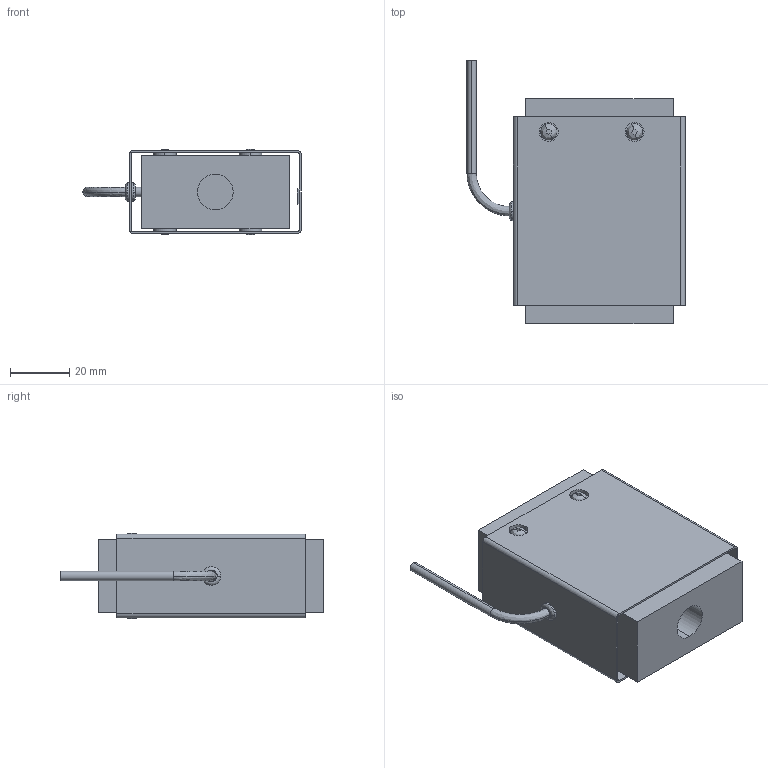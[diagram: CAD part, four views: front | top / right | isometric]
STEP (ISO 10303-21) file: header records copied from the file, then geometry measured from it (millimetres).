
FILE_DESCRIPTION (( 'STEP AP203' ), '1' );
FILE_NAME ('Interface SMT2-500N thru -2000N.STEP', '2012-05-21T17:40:32', ( ' ' ), ( '' ), 'SwSTEP 2.0', 'SolidWorks 2002349', '' );
FILE_SCHEMA (( 'CONFIG_CONTROL_DESIGN' ));
Length unit declared in the file: inch
Products named in the file (1): Interface SMT2-500N thru -2000N
Bounding box: 73.46 x 88.65 x 28.65 mm (x, y, z)
Volume: 98134.6 mm3; surface area: 37576.5 mm2
Topology: 1 solids, 1 shells, 111 faces, 282 edges, 188 vertices
Faces by surface type: plane 61, cylinder 36, bspline 14
Entity records: 3866 total; most frequent: CARTESIAN_POINT 1184, ORIENTED_EDGE 564, DIRECTION 500, EDGE_CURVE 282, VERTEX_POINT 188, AXIS2_PLACEMENT_3D 178, LINE 144, VECTOR 144
